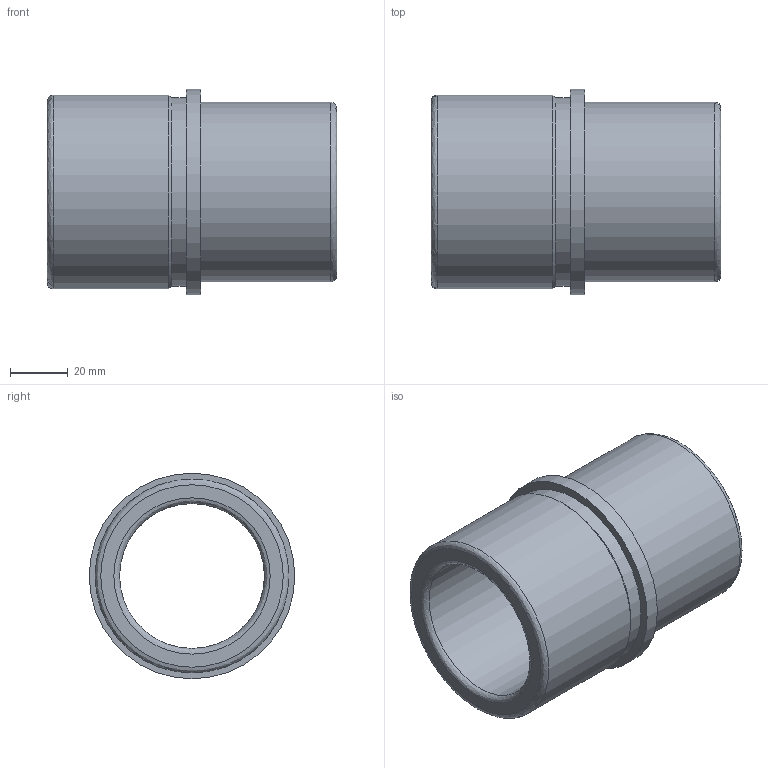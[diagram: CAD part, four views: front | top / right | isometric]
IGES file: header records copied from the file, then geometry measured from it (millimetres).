
Start section: Data from Parasolid IGES Translator 20.0.26, Copyright(c) 2006 Siemens P LM Software. All Rights Reserved.
Global section: file name: WZ - 4053 42 x 100 - 50.igs; native system: By Siemens PLM Incorporated; preprocessor: XPlus GENERIC/IGES 20.0.26; author: Noname; organization: Noname; date: 20201206.144449; units: millimetre
Bounding box: 100 x 71 x 71 mm (x, y, z)
Surface area: 39713.7 mm2 (no closed solid volume)
Topology: 0 solids, 0 shells, 14 faces, 52 edges, 38 vertices
Faces by surface type: revolution 10, extrusion 4
